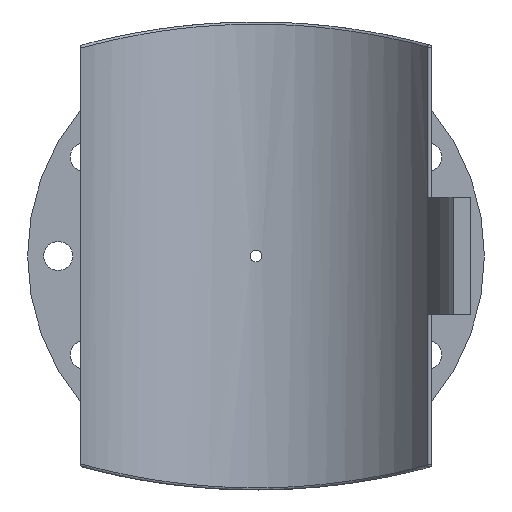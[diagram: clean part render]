
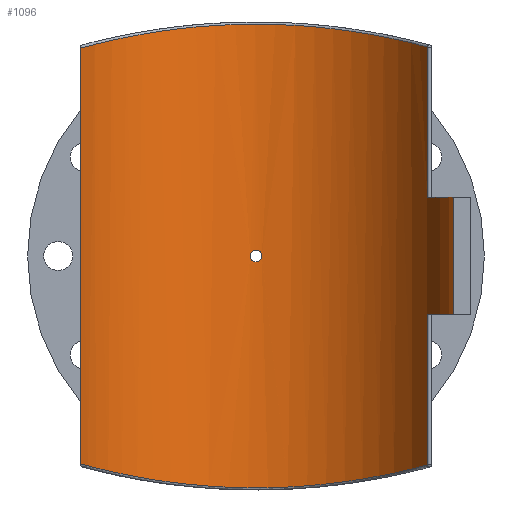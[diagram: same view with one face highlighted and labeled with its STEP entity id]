
A CAD part, front view. The second image highlights one B-rep face of the part: STEP entity #1096.
In plain terms, the highlighted cylindrical face has radius 177.5 mm (diameter 355 mm), a partial arc.
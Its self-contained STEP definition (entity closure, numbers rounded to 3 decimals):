
#55=FACE_BOUND('',#359,.T.);
#109=B_SPLINE_CURVE_WITH_KNOTS('',3,(#2305,#2306,#2307,#2308,#2309,#2310,
#2311,#2312,#2313,#2314),.UNSPECIFIED.,.F.,.F.,(4,1,1,1,1,1,1,4),(-49.792,
-44.268,-38.744,-33.221,-27.697,
-22.173,-16.649,-11.125),.UNSPECIFIED.);
#110=B_SPLINE_CURVE_WITH_KNOTS('',3,(#2323,#2324,#2325,#2326,#2327,#2328,
#2329,#2330,#2331,#2332),.UNSPECIFIED.,.F.,.F.,(4,1,1,1,1,1,1,4),(-39.526,
-34.002,-28.478,-22.954,-17.43,
-11.906,-6.382,-0.858),.UNSPECIFIED.);
#111=B_SPLINE_CURVE_WITH_KNOTS('',3,(#2335,#2336,#2337,#2338,#2339,#2340,
#2341,#2342,#2343,#2344),.UNSPECIFIED.,.F.,.F.,(4,2,2,2,4),(0.,0.196,
0.392,0.588,0.784),.UNSPECIFIED.);
#112=B_SPLINE_CURVE_WITH_KNOTS('',3,(#2345,#2346,#2347,#2348,#2349,#2350,
#2351,#2352,#2353,#2354,#2355,#2356,#2357,#2358,#2359,#2360,#2361,#2362,
#2363,#2364,#2365,#2366,#2367,#2368,#2369,#2370),.UNSPECIFIED.,.F.,.F.,
(4,2,2,2,2,2,2,2,2,2,2,2,4),(0.784,0.979,1.175,
1.371,1.567,1.763,1.959,2.155,
2.351,2.547,2.742,2.938,3.134),
 .UNSPECIFIED.);
#133=LINE('',#1644,#185);
#144=LINE('',#1970,#196);
#151=LINE('',#2319,#203);
#152=LINE('',#2322,#204);
#185=VECTOR('',#1314,10.);
#196=VECTOR('',#1353,10.);
#203=VECTOR('',#1390,10.);
#204=VECTOR('',#1393,10.);
#246=CYLINDRICAL_SURFACE('',#1194,177.5);
#291=FACE_OUTER_BOUND('',#358,.T.);
#358=EDGE_LOOP('',(#851,#852,#853,#854,#855,#856,#857,#858));
#359=EDGE_LOOP('',(#859,#860));
#454=CIRCLE('',#1195,177.5);
#455=CIRCLE('',#1196,177.5);
#517=VERTEX_POINT('',#1635);
#520=VERTEX_POINT('',#1642);
#540=VERTEX_POINT('',#1963);
#543=VERTEX_POINT('',#1968);
#556=VERTEX_POINT('',#2296);
#557=VERTEX_POINT('',#2316);
#558=VERTEX_POINT('',#2318);
#559=VERTEX_POINT('',#2321);
#560=VERTEX_POINT('',#2333);
#561=VERTEX_POINT('',#2334);
#622=EDGE_CURVE('',#520,#517,#133,.T.);
#652=EDGE_CURVE('',#543,#540,#144,.T.);
#675=EDGE_CURVE('',#556,#543,#109,.T.);
#676=EDGE_CURVE('',#557,#520,#454,.T.);
#677=EDGE_CURVE('',#557,#558,#151,.T.);
#678=EDGE_CURVE('',#540,#558,#455,.T.);
#679=EDGE_CURVE('',#559,#556,#152,.T.);
#680=EDGE_CURVE('',#517,#559,#110,.T.);
#681=EDGE_CURVE('',#560,#561,#111,.T.);
#682=EDGE_CURVE('',#561,#560,#112,.T.);
#851=ORIENTED_EDGE('',*,*,#676,.F.);
#852=ORIENTED_EDGE('',*,*,#677,.T.);
#853=ORIENTED_EDGE('',*,*,#678,.F.);
#854=ORIENTED_EDGE('',*,*,#652,.F.);
#855=ORIENTED_EDGE('',*,*,#675,.F.);
#856=ORIENTED_EDGE('',*,*,#679,.F.);
#857=ORIENTED_EDGE('',*,*,#680,.F.);
#858=ORIENTED_EDGE('',*,*,#622,.F.);
#859=ORIENTED_EDGE('',*,*,#681,.T.);
#860=ORIENTED_EDGE('',*,*,#682,.T.);
#1096=ADVANCED_FACE('',(#291,#55),#246,.F.);
#1194=AXIS2_PLACEMENT_3D('',#2315,#1386,#1387);
#1195=AXIS2_PLACEMENT_3D('',#2317,#1388,#1389);
#1196=AXIS2_PLACEMENT_3D('',#2320,#1391,#1392);
#1314=DIRECTION('',(0.,0.,-1.));
#1353=DIRECTION('',(0.,0.,-1.));
#1386=DIRECTION('center_axis',(0.,0.,1.));
#1387=DIRECTION('ref_axis',(0.278,0.961,0.));
#1388=DIRECTION('center_axis',(0.,0.,1.));
#1389=DIRECTION('ref_axis',(-0.996,0.085,0.));
#1390=DIRECTION('',(0.,0.,1.));
#1391=DIRECTION('center_axis',(0.,0.,-1.));
#1392=DIRECTION('ref_axis',(-0.996,0.085,0.));
#1393=DIRECTION('',(0.,0.,1.));
#1635=CARTESIAN_POINT('',(153.767,88.667,-187.469));
#1642=CARTESIAN_POINT('',(153.767,88.667,-52.5));
#1644=CARTESIAN_POINT('',(153.767,88.667,0.));
#1963=CARTESIAN_POINT('',(153.767,88.667,52.5));
#1968=CARTESIAN_POINT('',(153.767,88.667,187.469));
#1970=CARTESIAN_POINT('',(153.767,88.667,0.));
#2296=CARTESIAN_POINT('',(-157.5,81.854,186.441));
#2305=CARTESIAN_POINT('Ctrl Pts',(-157.5,81.854,186.441));
#2306=CARTESIAN_POINT('Ctrl Pts',(-149.17,97.882,188.764));
#2307=CARTESIAN_POINT('Ctrl Pts',(-127.656,127.259,194.376));
#2308=CARTESIAN_POINT('Ctrl Pts',(-83.683,159.681,202.689));
#2309=CARTESIAN_POINT('Ctrl Pts',(-31.6,177.535,207.999));
#2310=CARTESIAN_POINT('Ctrl Pts',(23.733,178.764,208.386));
#2311=CARTESIAN_POINT('Ctrl Pts',(76.61,163.198,203.693));
#2312=CARTESIAN_POINT('Ctrl Pts',(121.993,132.699,195.649));
#2313=CARTESIAN_POINT('Ctrl Pts',(144.752,104.301,189.919));
#2314=CARTESIAN_POINT('Ctrl Pts',(153.767,88.667,187.469));
#2315=CARTESIAN_POINT('Origin',(0.,0.,0.));
#2316=CARTESIAN_POINT('',(176.865,-15.,-52.5));
#2317=CARTESIAN_POINT('Origin',(0.,0.,
-52.5));
#2318=CARTESIAN_POINT('',(176.865,-15.,52.5));
#2319=CARTESIAN_POINT('',(176.865,-15.,0.));
#2320=CARTESIAN_POINT('Origin',(0.,0.,
52.5));
#2321=CARTESIAN_POINT('',(-157.5,81.854,-186.441));
#2322=CARTESIAN_POINT('',(-157.5,81.854,0.));
#2323=CARTESIAN_POINT('Ctrl Pts',(153.767,88.667,-187.469));
#2324=CARTESIAN_POINT('Ctrl Pts',(144.752,104.301,-189.919));
#2325=CARTESIAN_POINT('Ctrl Pts',(121.993,132.699,-195.649));
#2326=CARTESIAN_POINT('Ctrl Pts',(76.611,163.199,-203.694));
#2327=CARTESIAN_POINT('Ctrl Pts',(23.732,178.764,-208.385));
#2328=CARTESIAN_POINT('Ctrl Pts',(-31.599,177.535,-207.999));
#2329=CARTESIAN_POINT('Ctrl Pts',(-83.683,159.681,-202.689));
#2330=CARTESIAN_POINT('Ctrl Pts',(-127.656,127.259,-194.376));
#2331=CARTESIAN_POINT('Ctrl Pts',(-149.17,97.882,-188.764));
#2332=CARTESIAN_POINT('Ctrl Pts',(-157.5,81.854,-186.441));
#2333=CARTESIAN_POINT('',(5.2,177.424,0.));
#2334=CARTESIAN_POINT('',(0.,177.5,-5.2));
#2335=CARTESIAN_POINT('Ctrl Pts',(5.2,177.424,0.));
#2336=CARTESIAN_POINT('Ctrl Pts',(5.2,177.424,-0.653));
#2337=CARTESIAN_POINT('Ctrl Pts',(5.069,177.428,-1.349));
#2338=CARTESIAN_POINT('Ctrl Pts',(4.539,177.442,-2.631));
#2339=CARTESIAN_POINT('Ctrl Pts',(4.139,177.452,-3.215));
#2340=CARTESIAN_POINT('Ctrl Pts',(3.215,177.471,-4.139));
#2341=CARTESIAN_POINT('Ctrl Pts',(2.631,177.482,-4.539));
#2342=CARTESIAN_POINT('Ctrl Pts',(1.349,177.496,-5.069));
#2343=CARTESIAN_POINT('Ctrl Pts',(0.653,177.5,-5.2));
#2344=CARTESIAN_POINT('Ctrl Pts',(0.,177.5,-5.2));
#2345=CARTESIAN_POINT('Ctrl Pts',(0.,177.5,-5.2));
#2346=CARTESIAN_POINT('Ctrl Pts',(-0.653,177.5,-5.2));
#2347=CARTESIAN_POINT('Ctrl Pts',(-1.349,177.496,-5.069));
#2348=CARTESIAN_POINT('Ctrl Pts',(-2.631,177.482,-4.539));
#2349=CARTESIAN_POINT('Ctrl Pts',(-3.215,177.471,-4.139));
#2350=CARTESIAN_POINT('Ctrl Pts',(-4.139,177.452,-3.215));
#2351=CARTESIAN_POINT('Ctrl Pts',(-4.539,177.442,-2.631));
#2352=CARTESIAN_POINT('Ctrl Pts',(-5.069,177.428,-1.349));
#2353=CARTESIAN_POINT('Ctrl Pts',(-5.2,177.424,-0.653));
#2354=CARTESIAN_POINT('Ctrl Pts',(-5.2,177.424,0.653));
#2355=CARTESIAN_POINT('Ctrl Pts',(-5.069,177.428,1.349));
#2356=CARTESIAN_POINT('Ctrl Pts',(-4.539,177.442,2.631));
#2357=CARTESIAN_POINT('Ctrl Pts',(-4.139,177.452,3.215));
#2358=CARTESIAN_POINT('Ctrl Pts',(-3.215,177.471,4.139));
#2359=CARTESIAN_POINT('Ctrl Pts',(-2.631,177.482,4.539));
#2360=CARTESIAN_POINT('Ctrl Pts',(-1.349,177.496,5.069));
#2361=CARTESIAN_POINT('Ctrl Pts',(-0.653,177.5,5.2));
#2362=CARTESIAN_POINT('Ctrl Pts',(0.653,177.5,5.2));
#2363=CARTESIAN_POINT('Ctrl Pts',(1.349,177.496,5.069));
#2364=CARTESIAN_POINT('Ctrl Pts',(2.631,177.482,4.539));
#2365=CARTESIAN_POINT('Ctrl Pts',(3.215,177.471,4.139));
#2366=CARTESIAN_POINT('Ctrl Pts',(4.139,177.452,3.215));
#2367=CARTESIAN_POINT('Ctrl Pts',(4.539,177.442,2.631));
#2368=CARTESIAN_POINT('Ctrl Pts',(5.069,177.428,1.349));
#2369=CARTESIAN_POINT('Ctrl Pts',(5.2,177.424,0.653));
#2370=CARTESIAN_POINT('Ctrl Pts',(5.2,177.424,0.));
